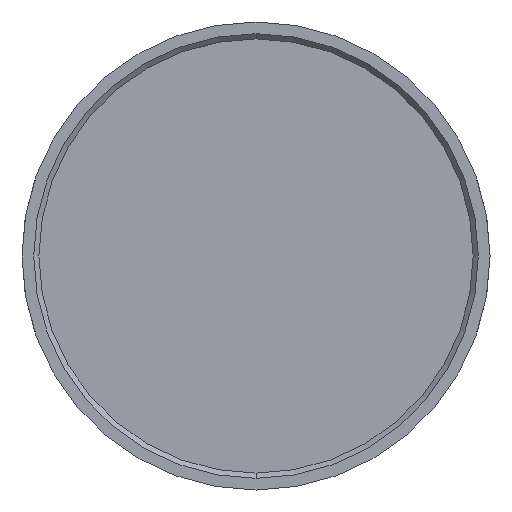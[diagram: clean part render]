
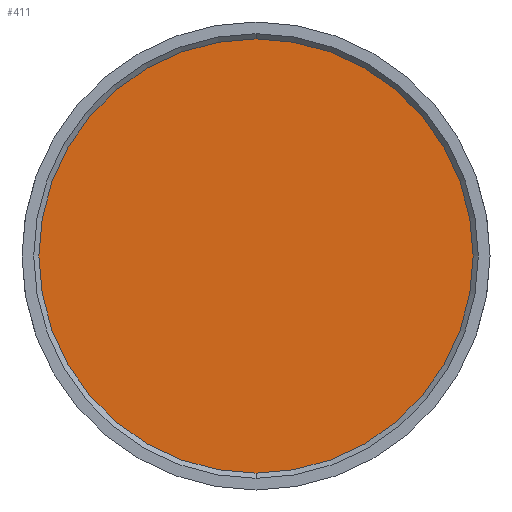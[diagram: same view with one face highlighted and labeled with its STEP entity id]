
A CAD part, front view. The second image highlights one B-rep face of the part: STEP entity #411.
In plain terms, the highlighted planar face has unit normal (0, -1, 0).
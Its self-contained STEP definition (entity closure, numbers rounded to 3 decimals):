
#52 = FACE_OUTER_BOUND ( 'NONE', #738, .T. ) ;
#309 = DIRECTION ( 'NONE',  ( 0., -1., 0. ) ) ;
#376 = DIRECTION ( 'NONE',  ( 0., -1., 0. ) ) ;
#411 = ADVANCED_FACE ( 'NONE', ( #52 ), #1040, .T. ) ;
#639 = AXIS2_PLACEMENT_3D ( 'NONE', #1649, #376, #950 ) ;
#727 = AXIS2_PLACEMENT_3D ( 'NONE', #1786, #1522, #956 ) ;
#738 = EDGE_LOOP ( 'NONE', ( #1132, #1322 ) ) ;
#950 = DIRECTION ( 'NONE',  ( 0., 0., -1. ) ) ;
#956 = DIRECTION ( 'NONE',  ( 0., 0., -1. ) ) ;
#972 = CARTESIAN_POINT ( 'NONE',  ( 0., 2.5, -8.35 ) ) ;
#1040 = PLANE ( 'NONE',  #1774 ) ;
#1086 = CIRCLE ( 'NONE', #639, 8.35 ) ;
#1132 = ORIENTED_EDGE ( 'NONE', *, *, #1517, .T. ) ;
#1322 = ORIENTED_EDGE ( 'NONE', *, *, #1506, .T. ) ;
#1387 = VERTEX_POINT ( 'NONE', #972 ) ;
#1464 = VERTEX_POINT ( 'NONE', #1499 ) ;
#1481 = CARTESIAN_POINT ( 'NONE',  ( 0., 2.5, 0. ) ) ;
#1499 = CARTESIAN_POINT ( 'NONE',  ( 0., 2.5, 8.35 ) ) ;
#1506 = EDGE_CURVE ( 'NONE', #1464, #1387, #1086, .T. ) ;
#1517 = EDGE_CURVE ( 'NONE', #1387, #1464, #1694, .T. ) ;
#1522 = DIRECTION ( 'NONE',  ( 0., -1., 0. ) ) ;
#1649 = CARTESIAN_POINT ( 'NONE',  ( 0., 2.5, 0. ) ) ;
#1694 = CIRCLE ( 'NONE', #727, 8.35 ) ;
#1731 = DIRECTION ( 'NONE',  ( 0., 0., -1. ) ) ;
#1774 = AXIS2_PLACEMENT_3D ( 'NONE', #1481, #309, #1731 ) ;
#1786 = CARTESIAN_POINT ( 'NONE',  ( 0., 2.5, 0. ) ) ;
